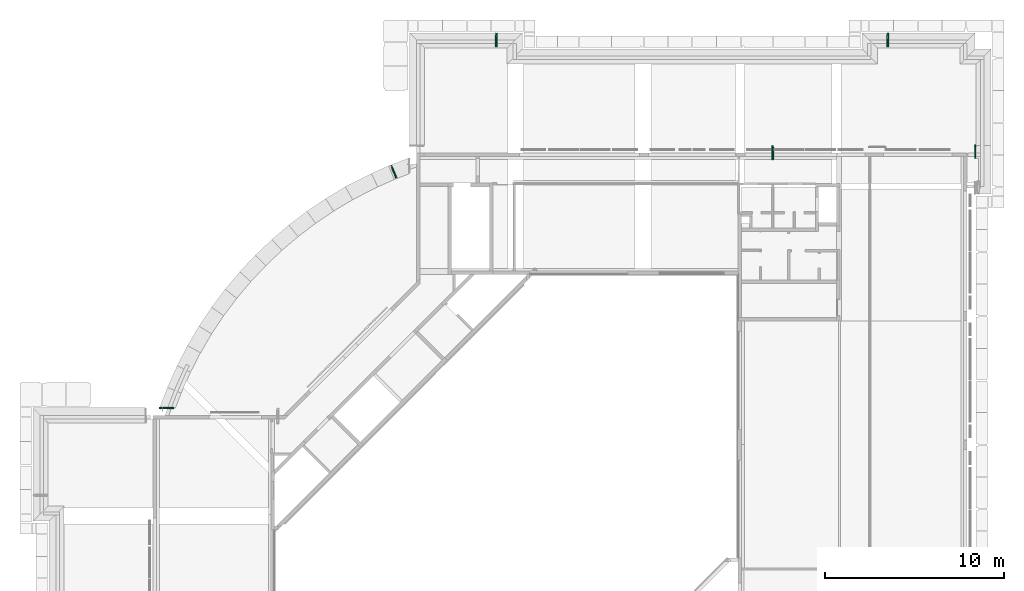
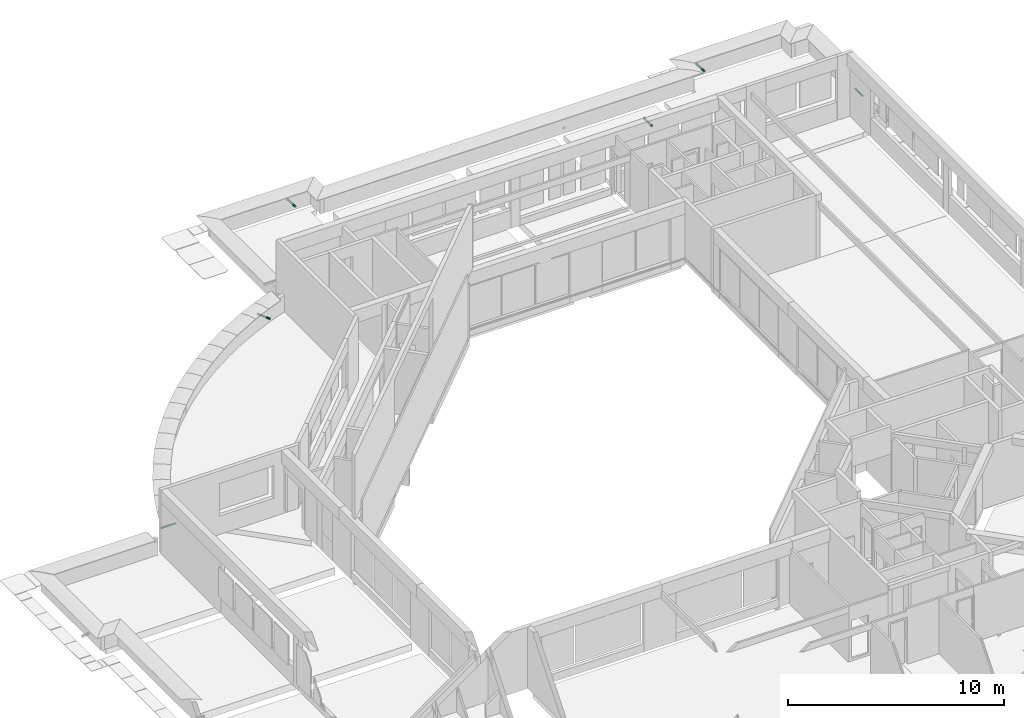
# One storey, part 34 of 38: 6 pipe fittings.
"""IFC4X3_ADD2 building model written with IfcOpenShell, lengths in millimetres."""

import ifcopenshell
import ifcopenshell.guid

model = None  # the IFC model being written
_history = None  # IfcOwnerHistory: only IFC2X3 demands one
_inside = {}  # id of a spatial element -> (the spatial element, [elements in it])
_under = {}  # id of a project, library or spatial element -> (it, [spatial elements below it])
_declared = {}  # id of a project -> (the project, [libraries it declares])
_typed = {}  # id of a type object -> (the type object, [elements of that type])
_made_of = {}  # id of a material, layer set ... -> (it, [elements and type objects made of it])


def new_model(schema):
    """Start an empty IFC model of exactly this schema.

    Asked for "IFC4X3", IfcOpenShell would pick the latest addendum, in which some entities
    have other attributes; the version numbers below select the first issue.
    IFC2X3 requires an IfcOwnerHistory on every rooted entity: one is made here for all.
    """
    global model, _history
    if schema == "IFC4X3":
        model = ifcopenshell.file(schema_version=(4, 3, 0, 0))
    else:
        model = ifcopenshell.file(schema=schema)
    _inside.clear()
    _under.clear()
    _declared.clear()
    _typed.clear()
    _made_of.clear()
    _history = None
    if model.schema == "IFC2X3":
        org = make("IfcOrganization", Name="unknown")
        user = make(
            "IfcPersonAndOrganization",
            ThePerson=make("IfcPerson", FamilyName="unknown"),
            TheOrganization=org,
        )
        app = make(
            "IfcApplication",
            ApplicationDeveloper=org,
            Version="unknown",
            ApplicationFullName="unknown",
            ApplicationIdentifier="unknown",
        )
        _history = make(
            "IfcOwnerHistory",
            OwningUser=user,
            OwningApplication=app,
            ChangeAction="ADDED",
            CreationDate=0,
        )
    return model


def make(cls, **values):
    """One entity of the class cls with the attributes given. An attribute that is None is left unset."""
    return model.create_entity(
        cls, **{name: value for name, value in values.items() if value is not None}
    )


def rooted(cls, **values):
    """An entity with a GlobalId (a new one), such as an element, a storey or a relation."""
    return make(cls, GlobalId=ifcopenshell.guid.new(), OwnerHistory=_history, **values)


def si_unit(unit_type, name, prefix=None):
    """IfcSIUnit, for example si_unit("LENGTHUNIT", "METRE", prefix="MILLI")."""
    return make("IfcSIUnit", UnitType=unit_type, Prefix=prefix, Name=name)


def assignment(units):
    """IfcUnitAssignment: the units of a project."""
    return None if units is None else make("IfcUnitAssignment", Units=units)


def point(xyz):
    """IfcCartesianPoint."""
    return None if xyz is None else make("IfcCartesianPoint", Coordinates=xyz)


def direction(xyz):
    """IfcDirection."""
    return None if xyz is None else make("IfcDirection", DirectionRatios=xyz)


def frame(location, z_axis=None, x_axis=None):
    """IfcAxis2Placement3D, a coordinate frame: its origin and axes. An axis left out is left unset."""
    return make(
        "IfcAxis2Placement3D",
        Location=point(location),
        Axis=direction(z_axis),
        RefDirection=direction(x_axis),
    )


def frame_2d(location, x_axis=None):
    """IfcAxis2Placement2D, a coordinate frame in the plane: its origin and x axis."""
    return make(
        "IfcAxis2Placement2D", Location=point(location), RefDirection=direction(x_axis)
    )


def origin_with_axes():
    """The frame at (0, 0, 0) with the z axis (0, 0, 1) and the x axis (1, 0, 0) written out."""
    return frame((0.0, 0.0, 0.0), z_axis=(0.0, 0.0, 1.0), x_axis=(1.0, 0.0, 0.0))


def place(relative_to, where):
    """IfcLocalPlacement: puts the frame where relative to a parent placement (None: the world)."""
    return make(
        "IfcLocalPlacement", PlacementRelTo=relative_to, RelativePlacement=where
    )


def context(
    kind, dimensions, precision=None, world=None, true_north=None, identifier=None
):
    """IfcGeometricRepresentationContext, for example the 3D "Model" context."""
    return make(
        "IfcGeometricRepresentationContext",
        ContextIdentifier=identifier,
        ContextType=kind,
        CoordinateSpaceDimension=dimensions,
        Precision=precision,
        WorldCoordinateSystem=world,
        TrueNorth=true_north,
    )


def subcontext(parent, identifier, kind, view, scale=None):
    """IfcGeometricRepresentationSubContext, for example "Body" below "Model"."""
    return make(
        "IfcGeometricRepresentationSubContext",
        ContextIdentifier=identifier,
        ContextType=kind,
        ParentContext=parent,
        TargetScale=scale,
        TargetView=view,
    )


def project(units=None, contexts=None):
    """IfcProject with its units and contexts."""
    return rooted(
        "IfcProject",
        Name="project",
        RepresentationContexts=contexts,
        UnitsInContext=assignment(units),
    )


def spatial(cls, under=None, at=None, **own):
    """A site, building, storey or space (cls), placed at a placement, below another one or the project."""
    s = rooted(cls, ObjectPlacement=at, **own)
    if under is not None:
        _under.setdefault(under.id(), (under, []))[1].append(s)
    return s


def polyline(points):
    """IfcPolyline through the points."""
    return make("IfcPolyline", Points=[point(p) for p in points])


def point_list(points):
    """IfcCartesianPointList2D or 3D."""
    cls = (
        "IfcCartesianPointList2D" if len(points[0]) == 2 else "IfcCartesianPointList3D"
    )
    return make(cls, CoordList=points)


def profile(cls, at=None, kind="AREA", **sizes):
    """A parametric profile (cls). Its sizes go by their IFC names, for example OverallWidth=200.0."""
    return make(cls, ProfileType=kind, Position=at, **sizes)


def rectangle(**sizes):
    """IfcRectangleProfileDef."""
    return profile("IfcRectangleProfileDef", **sizes)


def circle(**sizes):
    """IfcCircleProfileDef."""
    return profile("IfcCircleProfileDef", **sizes)


def outline(outer, holes=None, kind="AREA"):
    """IfcArbitraryClosedProfileDef: a profile drawn as a closed curve; with holes, ...WithVoids."""
    if holes is None:
        return make("IfcArbitraryClosedProfileDef", ProfileType=kind, OuterCurve=outer)
    return make(
        "IfcArbitraryProfileDefWithVoids",
        ProfileType=kind,
        OuterCurve=outer,
        InnerCurves=holes,
    )


def extrude(swept, where, along, depth):
    """IfcExtrudedAreaSolid: the profile swept, set in the frame where, extruded along a direction by depth."""
    return make(
        "IfcExtrudedAreaSolid",
        SweptArea=swept,
        Position=where,
        ExtrudedDirection=direction(along),
        Depth=depth,
    )


def polygons(points, faces, closed=None, point_numbers=None):
    """IfcPolygonalFaceSet: a face is its outer loop, then its inner loops; points numbered from 1."""
    made = []
    for loops in faces:
        if len(loops) == 1:
            made.append(make("IfcIndexedPolygonalFace", CoordIndex=loops[0]))
        else:
            made.append(
                make(
                    "IfcIndexedPolygonalFaceWithVoids",
                    CoordIndex=loops[0],
                    InnerCoordIndices=loops[1:],
                )
            )
    return make(
        "IfcPolygonalFaceSet",
        Coordinates=point_list(points),
        Closed=closed,
        Faces=made,
        PnIndex=point_numbers,
    )


def shape(context_of_items, identifier, shape_type, items):
    """IfcShapeRepresentation: the items that make up one representation, for example the "Body"."""
    return make(
        "IfcShapeRepresentation",
        ContextOfItems=context_of_items,
        RepresentationIdentifier=identifier,
        RepresentationType=shape_type,
        Items=items,
    )


def source(mapping_origin, context_of_items, identifier, shape_type, items):
    """IfcRepresentationMap: a shape defined once, which mapped items show again and again."""
    return make(
        "IfcRepresentationMap",
        MappingOrigin=mapping_origin,
        MappedRepresentation=shape(context_of_items, identifier, shape_type, items),
    )


def transform(
    local_origin,
    x_axis=None,
    y_axis=None,
    z_axis=None,
    scale=None,
    scale2=None,
    scale3=None,
    uniform=True,
):
    """IfcCartesianTransformationOperator3D, or its non-uniform kind. x_axis, y_axis, z_axis: its Axis1, 2, 3."""
    if uniform:
        return make(
            "IfcCartesianTransformationOperator3D",
            Axis1=direction(x_axis),
            Axis2=direction(y_axis),
            LocalOrigin=point(local_origin),
            Scale=scale,
            Axis3=direction(z_axis),
        )
    return make(
        "IfcCartesianTransformationOperator3DnonUniform",
        Axis1=direction(x_axis),
        Axis2=direction(y_axis),
        LocalOrigin=point(local_origin),
        Scale=scale,
        Axis3=direction(z_axis),
        Scale2=scale2,
        Scale3=scale3,
    )


def mapped(mapping_source, mapping_target):
    """IfcMappedItem: shows the shape of a source again, moved by a transform."""
    return make(
        "IfcMappedItem", MappingSource=mapping_source, MappingTarget=mapping_target
    )


def material(Name=None, Category=None):
    """IfcMaterial."""
    return make("IfcMaterial", Name=Name, Category=Category)


def made_of(thing, what):
    """Note that an element or type object is made of a material, layer set ...; save() writes the relation."""
    if what is not None:
        _made_of.setdefault(what.id(), (what, []))[1].append(thing)
    return thing


def element(
    cls,
    number,
    at=None,
    inside=None,
    cuts=None,
    type_object=None,
    material=None,
    context=None,
    identifier="Body",
    shape_type=None,
    held_by="IfcProductDefinitionShape",
    body=None,
    shapes=None,
    **own,
):
    """One element of the class cls, such as IfcWall. Its Tag is "e" and its number.

    at: its placement. inside: the storey or other place that contains it. cuts: it is an
    opening in that element (IfcRelVoidsElement). A single representation is given by context,
    identifier, shape_type and body (its items); several are given by shapes. held_by: the class
    of the entity that holds the representations. save() writes the other relations.
    """
    e = rooted(cls, Tag="e%d" % number, ObjectPlacement=at, **own)
    if body is not None:
        shapes = [shape(context, identifier, shape_type, body)]
    if shapes is not None:
        e.Representation = make(held_by, Representations=shapes)
    if inside is not None:
        _inside.setdefault(inside.id(), (inside, []))[1].append(e)
    if cuts is not None:
        rooted(
            "IfcRelVoidsElement", RelatingBuildingElement=cuts, RelatedOpeningElement=e
        )
    if type_object is not None:
        _typed.setdefault(type_object.id(), (type_object, []))[1].append(e)
    return made_of(e, material)


def aggregate(whole, parts):
    """IfcRelAggregates: a whole, such as a stair, and the parts it consists of."""
    return rooted("IfcRelAggregates", RelatingObject=whole, RelatedObjects=parts)


def save(model, path):
    """Write the relations noted so far, then the file.

    IfcRelAggregates (storeys below a building ...), IfcRelContainedInSpatialStructure (elements
    in a storey), IfcRelDefinesByType, IfcRelAssociatesMaterial and IfcRelDeclares: one each for
    every whole, place, type object, material and project.
    """
    for whole, parts in _under.values():
        aggregate(whole, parts)
    for where, things in _inside.values():
        rooted(
            "IfcRelContainedInSpatialStructure",
            RelatedElements=things,
            RelatingStructure=where,
        )
    for kind, things in _typed.values():
        rooted("IfcRelDefinesByType", RelatedObjects=things, RelatingType=kind)
    for what, things in _made_of.values():
        rooted("IfcRelAssociatesMaterial", RelatedObjects=things, RelatingMaterial=what)
    for by, libraries in _declared.values():
        rooted("IfcRelDeclares", RelatingContext=by, RelatedDefinitions=libraries)
    model.write(path)


model = new_model("IFC4X3_ADD2")

# Units and contexts
model_context = context("Model", 3, precision=1e-05, world=origin_with_axes(), true_north=direction((0.0, 1.0)))
body_context = subcontext(model_context, "Body", "Model", "MODEL_VIEW")
ifc_project = project(units=[si_unit("LENGTHUNIT", "METRE", prefix="MILLI"), si_unit("AREAUNIT", "SQUARE_METRE"), si_unit("VOLUMEUNIT", "CUBIC_METRE"), si_unit("PLANEANGLEUNIT", "RADIAN"), si_unit("TIMEUNIT", "SECOND"), si_unit("MASSUNIT", "GRAM")], contexts=[model_context])

# Site, building, storey
site_placement = place(None, origin_with_axes())
site = spatial("IfcSite", under=ifc_project, at=site_placement, Name="Site", CompositionType="ELEMENT")
building_placement = place(site_placement, origin_with_axes())
building = spatial("IfcBuilding", under=site, at=building_placement, Name="IFC Building Story")
storey_placement = place(building_placement, frame((0.0, 0.0, 10800.0), z_axis=(0.0, 0.0, 1.0), x_axis=(1.0, 0.0, 0.0)))
storey = spatial("IfcBuildingStorey", under=building, at=storey_placement, Name="030", Elevation=10800.0)

# Pipe fittings
shared_shape_1 = source(origin_with_axes(), body_context, "Body", "Tessellation", [
    polygons([(2.59527223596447, 80.2423912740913, 117.667377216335), (2.59527223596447, 80.2423912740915, 3.79003495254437e-11), (20.5952722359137, 80.2423912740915, 7.30935312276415e-11), (20.5952722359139, 80.2423912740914, 41.0150039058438), (20.5952722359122, 80.2423912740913, 117.667377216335), (2.59527223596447, 82.2423912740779, 117.667377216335), (2.59527223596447, 82.2423912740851, 7.28228144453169e-11), (110.595272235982, 82.2423912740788, 0.0), (110.595272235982, 82.2423912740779, 117.667377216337), (110.595272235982, 80.2423912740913, 117.667377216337), (110.595272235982, 80.2423912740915, 0.0), (92.5952722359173, 82.2423912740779, 117.667377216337), (92.5952722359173, 80.2423912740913, 117.667377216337), (92.5952722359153, 82.2423912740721, 41.0983372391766), (92.5952722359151, 80.2423912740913, 41.0150039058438), (20.5952722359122, 82.2423912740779, 117.667377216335), (20.5952722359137, 82.2423912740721, 41.0983372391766), (20.5952722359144, 42.242391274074, 1.12347464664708e-10), (20.5952722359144, 42.2423912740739, 39.4316705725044), (92.5952722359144, 42.2423912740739, 39.4316705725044), (92.5952722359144, 42.242391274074, 1.12347464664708e-10), (92.5952722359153, 80.2423912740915, 7.20106640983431e-11), (22.5952722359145, 82.2423912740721, 41.0983372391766), (22.5952722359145, 82.2423912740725, 1.08015996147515e-10), (22.5952722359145, 44.2423912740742, 9.33972899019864e-11), (90.5952722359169, 44.2423912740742, 9.33972899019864e-11), (90.5952722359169, 82.2423912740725, 1.08015996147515e-10), (90.5952722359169, 82.2423912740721, 41.0983372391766), (90.5952722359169, 44.2423912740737, 39.515003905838), (22.5952722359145, 44.2423912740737, 39.515003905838)], [[[4, 5, 1]], [[4, 1, 2]], [[2, 3, 4]], [[6, 7, 2, 1]], [[8, 9, 10, 11]], [[9, 12, 13, 10]], [[13, 12, 14, 15]], [[16, 5, 4, 17]], [[16, 6, 1, 5]], [[18, 19, 4, 3]], [[20, 21, 22, 15]], [[19, 18, 21, 20]], [[17, 23, 24]], [[17, 24, 7]], [[7, 6, 16]], [[7, 16, 17]], [[3, 2, 7]], [[3, 7, 24]], [[22, 21, 26]], [[22, 26, 27]], [[27, 8, 11]], [[27, 11, 22]], [[21, 18, 25]], [[21, 25, 26]], [[18, 3, 24]], [[18, 24, 25]], [[15, 14, 28]], [[4, 19, 30]], [[4, 30, 23]], [[23, 17, 4]], [[19, 20, 29]], [[19, 29, 30]], [[20, 15, 28]], [[20, 28, 29]], [[26, 29, 28, 27]], [[30, 25, 24, 23]], [[29, 26, 25, 30]], [[14, 12, 9]], [[14, 9, 8]], [[8, 27, 14]], [[27, 28, 14]], [[15, 22, 11]], [[11, 10, 13]], [[11, 13, 15]]]),
    polygons([(1.59527223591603, 121.601263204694, 81.2353264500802), (3.46935179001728, 122.193875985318, 67.0126197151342), (8.9638750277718, 122.746103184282, 53.7591669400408), (17.7043992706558, 123.220311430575, 42.378169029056), (29.0952722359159, 123.584184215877, 33.645222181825), (42.3602247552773, 123.812924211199, 28.1554622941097), (56.5952722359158, 123.890943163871, 26.2830074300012), (70.8303197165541, 123.812924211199, 28.1554622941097), (84.0952722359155, 123.584184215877, 33.6452221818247), (95.4861452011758, 123.220311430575, 42.3781690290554), (104.22666944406, 122.746103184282, 53.7591669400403), (109.721192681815, 122.193875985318, 67.0126197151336), (111.595272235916, 121.601263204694, 81.2353264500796), (109.721192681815, 121.008650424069, 95.4580331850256), (104.22666944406, 120.456423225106, 108.711485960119), (95.4861452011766, 119.982214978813, 120.092483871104), (84.0952722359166, 119.618342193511, 128.825430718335), (70.8303197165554, 119.389602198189, 134.31519060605), (56.595272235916, 119.311583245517, 136.187645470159), (42.3602247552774, 119.389602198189, 134.315190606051), (29.095272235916, 119.618342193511, 128.825430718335), (17.704399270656, 119.982214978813, 120.092483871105), (8.96387502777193, 120.456423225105, 108.71148596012), (3.46935179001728, 121.008650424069, 95.4580331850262), (29.095272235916, 769.054839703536, 155.885284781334), (42.3602247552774, 768.826099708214, 161.375044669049), (56.5952722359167, 768.748080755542, 163.247499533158), (70.8303197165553, 768.826099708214, 161.375044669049), (84.0952722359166, 769.054839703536, 155.885284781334), (95.4861452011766, 769.418712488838, 147.152337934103), (104.22666944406, 769.892920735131, 135.771340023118), (109.721192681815, 770.445147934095, 122.517887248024), (111.595272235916, 771.037760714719, 108.295180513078), (109.721192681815, 771.630373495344, 94.0724737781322), (104.22666944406, 772.182600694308, 80.8190210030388), (95.4861452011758, 772.6568089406, 69.438023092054), (84.0952722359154, 773.020681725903, 60.7050762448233), (70.8303197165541, 773.249421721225, 55.2153163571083), (56.5952722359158, 773.327440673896, 53.3428614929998), (42.3602247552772, 773.249421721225, 55.2153163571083), (29.0952722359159, 773.020681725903, 60.7050762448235), (17.7043992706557, 772.6568089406, 69.4380230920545), (8.96387502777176, 772.182600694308, 80.8190210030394), (3.46935179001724, 771.630373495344, 94.0724737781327), (1.59527223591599, 771.037760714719, 108.295180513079), (3.46935179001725, 770.445147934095, 122.517887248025), (8.9638750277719, 769.892920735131, 135.771340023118), (17.7043992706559, 769.418712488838, 147.152337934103), (77.6428610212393, 448.434900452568, 43.9959306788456), (67.0575535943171, 483.984405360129, 42.2920262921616), (67.0575535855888, 408.654618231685, 147.23848065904), (77.6428610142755, 444.204123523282, 145.534576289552), (56.5952722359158, 382.618184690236, 37.0633091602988), (56.5952722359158, 514.600199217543, 42.5625597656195), (100.229705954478, 447.713380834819, 61.3124012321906), (111.124739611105, 446.020648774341, 101.937970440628), (56.5952722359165, 510.020839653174, 152.467197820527), (90.0771508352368, 448.136037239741, 51.1686476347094), (107.408646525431, 447.195734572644, 73.7359114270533), (111.124739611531, 446.618375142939, 87.5925365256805), (56.595272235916, 378.038831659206, 146.967947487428), (107.408646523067, 445.443289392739, 115.794595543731), (90.0771508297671, 444.502986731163, 138.361859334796), (100.22970595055, 444.92564313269, 128.218105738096), (23.1133935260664, 444.502988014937, 138.3618592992), (35.5476832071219, 444.20412714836, 145.534576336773), (46.1329905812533, 479.488667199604, 150.189899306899), (12.9608384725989, 444.925643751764, 128.21810570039), (46.132990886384, 413.150363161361, 39.3406078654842), (35.5476834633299, 448.434900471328, 43.9959306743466), (5.78189792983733, 445.443289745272, 115.794595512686), (2.06580485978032, 446.020648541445, 101.937970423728), (2.06580486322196, 446.618375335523, 87.5925365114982), (5.78189795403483, 447.195734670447, 73.7359114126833), (12.9608385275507, 447.713380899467, 61.3124012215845), (23.113393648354, 448.136037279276, 51.1686476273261)], [[[1, 2, 3]], [[1, 3, 4]], [[1, 4, 5]], [[1, 5, 6]], [[1, 6, 7]], [[1, 7, 8]], [[1, 8, 9]], [[1, 9, 10]], [[1, 10, 11]], [[1, 11, 12]], [[1, 12, 13]], [[1, 13, 14]], [[1, 14, 15]], [[1, 15, 16]], [[1, 16, 17]], [[1, 17, 18]], [[1, 18, 19]], [[1, 19, 20]], [[1, 20, 21]], [[1, 21, 22]], [[1, 22, 23]], [[1, 23, 24]], [[25, 26, 27]], [[25, 27, 28]], [[25, 28, 29]], [[25, 29, 30]], [[25, 30, 31]], [[25, 31, 32]], [[25, 32, 33]], [[25, 33, 34]], [[25, 34, 35]], [[25, 35, 36]], [[25, 36, 37]], [[25, 37, 38]], [[25, 38, 39]], [[25, 39, 40]], [[25, 40, 41]], [[25, 41, 42]], [[25, 42, 43]], [[25, 43, 44]], [[25, 44, 45]], [[25, 45, 46]], [[25, 46, 47]], [[25, 47, 48]], [[49, 50, 38]], [[28, 51, 52]], [[50, 53, 54, 39]], [[37, 49, 38]], [[55, 36, 35]], [[13, 56, 14]], [[28, 27, 57]], [[37, 36, 58]], [[8, 50, 49]], [[59, 35, 34]], [[39, 38, 50]], [[53, 50, 8]], [[58, 49, 37]], [[8, 7, 53]], [[59, 55, 35]], [[9, 49, 58]], [[55, 58, 36]], [[10, 58, 55]], [[55, 59, 11]], [[10, 55, 11]], [[60, 13, 12]], [[8, 49, 9]], [[56, 60, 33]], [[51, 57, 61, 19]], [[62, 32, 31]], [[52, 63, 29]], [[17, 52, 18]], [[30, 64, 31]], [[52, 29, 28]], [[15, 64, 16]], [[63, 64, 30]], [[30, 29, 63]], [[28, 57, 51]], [[19, 18, 51]], [[32, 56, 33]], [[14, 56, 62]], [[60, 59, 34]], [[13, 60, 56]], [[59, 60, 12]], [[15, 62, 64]], [[64, 62, 31]], [[16, 64, 63]], [[63, 52, 17]], [[33, 60, 34]], [[62, 56, 32]], [[11, 59, 12]], [[14, 62, 15]], [[16, 63, 17]], [[51, 18, 52]], [[9, 58, 10]], [[65, 66, 25]], [[67, 20, 61]], [[66, 26, 25]], [[67, 26, 66]], [[68, 48, 47]], [[40, 69, 70]], [[67, 61, 57, 27]], [[25, 48, 65]], [[69, 54, 53, 7]], [[71, 47, 46]], [[20, 66, 21]], [[26, 67, 27]], [[20, 19, 61]], [[22, 68, 23]], [[21, 65, 22]], [[21, 66, 65]], [[23, 71, 24]], [[22, 65, 68]], [[68, 71, 23]], [[72, 71, 46]], [[72, 1, 24]], [[68, 65, 48]], [[73, 72, 45]], [[71, 68, 47]], [[74, 44, 43]], [[40, 39, 54]], [[69, 6, 70]], [[42, 75, 43]], [[70, 41, 40]], [[70, 76, 41]], [[5, 70, 6]], [[42, 41, 76]], [[4, 76, 5]], [[7, 6, 69]], [[44, 73, 45]], [[2, 73, 74]], [[45, 72, 46]], [[1, 72, 73]], [[2, 74, 3]], [[3, 74, 75]], [[3, 75, 4]], [[4, 75, 76]], [[76, 70, 5]], [[76, 75, 42]], [[74, 73, 44]], [[75, 74, 43]], [[40, 54, 69]], [[1, 73, 2]], [[20, 67, 66]], [[71, 72, 24]]]),
    polygons([(90.5952722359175, 120.083261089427, 117.667377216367), (22.5952722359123, 120.083261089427, 117.667377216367), (22.5952722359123, 120.000000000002, 119.665643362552), (90.5952722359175, 120.000000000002, 119.665643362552), (90.5952722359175, 40.0166903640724, 114.3312701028), (90.5952722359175, 39.9334292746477, 116.329536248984), (22.5952722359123, 39.9334292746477, 116.329536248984), (22.5952722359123, 40.0166903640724, 114.3312701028)], [[[1, 2, 3, 4]], [[5, 6, 7, 8]], [[2, 1, 5, 8]], [[4, 3, 7, 6]], [[3, 2, 8, 7]], [[1, 4, 6, 5]]]),
    polygons([(92.5952722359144, 0.0, 114.665643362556), (90.5952722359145, 0.0, 114.665643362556), (90.5952722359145, 3.11934390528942, 39.8013896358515), (22.5952722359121, 3.11934390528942, 39.8013896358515), (22.5952722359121, 0.0, 114.665643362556), (20.5952722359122, 0.0, 114.665643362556), (20.5952722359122, 3.20252640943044, 37.8050095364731), (92.5952722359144, 3.20252640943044, 37.8050095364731), (20.5952722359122, 123.202526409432, 42.8050095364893), (92.5952722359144, 123.202526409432, 42.8050095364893), (22.5952722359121, 123.119343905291, 44.8013896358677), (22.5952722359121, 120.0, 119.665643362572), (90.5952722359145, 123.119343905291, 44.8013896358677), (90.5952722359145, 120.0, 119.665643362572), (92.5952722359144, 120.0, 119.665643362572), (20.5952722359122, 120.0, 119.665643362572)], [[[4, 5, 6]], [[4, 6, 7]], [[7, 8, 3]], [[7, 3, 4]], [[8, 1, 2]], [[8, 2, 3]], [[9, 10, 8, 7]], [[11, 12, 5, 4]], [[13, 11, 4, 3]], [[14, 13, 3, 2]], [[13, 14, 15]], [[13, 15, 10]], [[10, 9, 11]], [[10, 11, 13]], [[9, 16, 12]], [[9, 12, 11]], [[10, 15, 1, 8]], [[16, 9, 7, 6]], [[12, 16, 6, 5]], [[15, 14, 2, 1]]]),
])
for number, where, z_axis, x_axis, name in (
    (1, (-26143.4047277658, 52098.2423912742, 10.0), (0.0, 0.0, 1.0), (-1.0, 0.0, 0.0), "Afwerkstuk spuwer 70 x 70 RVS:Type 1"),
    (2, (-4274.15472776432, 52098.2423912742, 10.0), (0.0, 0.0, 1.0), (-1.0, 0.0, 0.0), "Afwerkstuk spuwer 70 x 70 RVS:Type 1"),
):
    element("IfcPipeFitting", number, at=place(storey_placement, frame(where, z_axis=z_axis, x_axis=x_axis)), inside=storey, Name=name, ObjectType="Afwerkstuk spuwer 70 x 70 RVS:Type 1", PredefinedType="EXIT", context=body_context, shape_type="MappedRepresentation", body=[
        mapped(shared_shape_1, transform((0.0, 0.0, 0.0))),
    ])
shared_shape_2 = source(origin_with_axes(), body_context, "Body", "SweptSolid", [
    extrude(outline(polyline([(36.00000000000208, -38.96319017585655), (-36.00000000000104, -38.96319017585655), (-36.00000000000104, 37.96413401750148), (-34.00000000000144, 37.96413401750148), (-34.00000000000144, -36.96507785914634), (34.0, -36.96507785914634), (34.0, 37.96413401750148), (36.00000000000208, 37.96413401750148), (36.00000000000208, -38.96319017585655)])), frame((56.59527223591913, 773.3422453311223, 54.85395429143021), z_axis=(0.0, -0.999133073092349, 0.0416305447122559), x_axis=(1.0, 0.0, 0.0)), (0.0, 0.0, 1.0), 120.104121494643),
    extrude(rectangle(XDim=80.13604281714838, YDim=68.0000000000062, at=frame_2d((0.0, 0.0), x_axis=(0.0, 1.0))), frame((56.5952722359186, 694.8727371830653, 94.11885647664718), z_axis=(0.0, 0.04163054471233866, 0.9991330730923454), x_axis=(1.0, 0.0, 0.0)), (0.0, 0.0, 1.0), 2.0),
    extrude(circle(Radius=54.9999999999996, at=frame_2d((0.0, 0.0), x_axis=(0.0, 1.0))), frame((56.59527223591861, 653.3214497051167, 59.35485926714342), z_axis=(0.0, -0.999133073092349, 0.0416305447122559), x_axis=(1.0, 0.0, 0.0)), (0.0, 0.0, 1.0), 649.9999999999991),
    extrude(outline(polyline([(54.00000000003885, -43.39345501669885), (35.99999999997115, -43.39345501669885), (35.99999999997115, 34.39345501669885), (-36.00000000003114, 34.39345501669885), (-36.00000000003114, -43.39345501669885), (-53.99999999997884, -43.39345501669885), (-53.99999999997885, 52.39345501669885), (54.00000000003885, 52.39345501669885), (54.00000000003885, -43.39345501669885)])), frame((56.59527223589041, 692.6803216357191, 52.39345501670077), z_axis=(0.0, 1.0, 0.0), x_axis=(1.0, 0.0, 0.0)), (0.0, 0.0, 1.0), 1.999999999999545),
])
pipe_fitting_1_placement = place(storey_placement, frame((-10831.5952722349, 45023.319678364, 3021.880467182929), z_axis=(0.0, 0.0, 1.0), x_axis=(1.0, 0.0, 0.0)))
element("IfcPipeFitting", 3, at=pipe_fitting_1_placement, inside=storey, Name="Afwerkstuk spuwer 70 x 70 RVS:Type 1", ObjectType="Afwerkstuk spuwer 70 x 70 RVS:Type 1", PredefinedType="EXIT", context=body_context, shape_type="MappedRepresentation", body=[
    mapped(shared_shape_2, transform((0.0, 0.0, 0.0))),
])
shared_shape_3 = source(origin_with_axes(), body_context, "Body", "SweptSolid", [
    extrude(outline(polyline([(-53.99999999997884, -43.39345501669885), (-53.99999999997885, 52.39345501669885), (54.00000000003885, 52.39345501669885), (54.00000000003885, -43.39345501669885), (35.99999999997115, -43.39345501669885), (35.99999999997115, 34.39345501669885), (-36.00000000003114, 34.39345501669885), (-36.00000000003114, -43.39345501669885), (-53.99999999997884, -43.39345501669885)])), frame((56.59527223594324, 80.2423912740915, 52.39345501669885), z_axis=(0.0, 1.0, 0.0), x_axis=(1.0, 0.0, 0.0)), (0.0, 0.0, 1.0), 1.999999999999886),
    extrude(circle(Radius=54.9999999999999, at=frame_2d((0.0, 0.0), x_axis=(0.0, -1.0))), frame((56.5952722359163, 121.601263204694, 59.3548592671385), z_axis=(0.0, 0.9991330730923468, 0.04163054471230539), x_axis=(1.0, 0.0, 0.0)), (0.0, 0.0, 1.0), 650.0),
    extrude(rectangle(XDim=80.13604281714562, YDim=68.00000000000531, at=frame_2d((0.0, 0.0), x_axis=(0.0, 1.0))), frame((56.5952722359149, 80.04997572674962, 94.11885647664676), z_axis=(0.0, -0.04163054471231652, 0.9991330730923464), x_axis=(1.0, 0.0, 0.0)), (0.0, 0.0, 1.0), 1.999999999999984),
    extrude(outline(polyline([(36.00000000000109, -37.96413401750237), (34.0000000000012, -37.96413401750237), (34.0000000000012, 36.96507785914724), (-34.00000000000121, 36.96507785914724), (-34.00000000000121, -37.96413401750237), (-36.00000000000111, -37.96413401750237), (-36.00000000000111, 38.96319017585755), (36.00000000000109, 38.96319017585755), (36.00000000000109, -37.96413401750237)])), frame((56.5952722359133, 1.580467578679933, 54.85395429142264), z_axis=(0.0, 0.9991330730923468, 0.04163054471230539), x_axis=(1.0, 0.0, 0.0)), (0.0, 0.0, 1.0), 120.104121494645),
])
pipe_fitting_2_placement = place(storey_placement, frame((-32029.1152367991, 44721.5838455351, 91.88046718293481), z_axis=(0.0, 0.0, 1.0), x_axis=(-0.9264646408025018, -0.3763818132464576, 0.0)))
element("IfcPipeFitting", 4, at=pipe_fitting_2_placement, inside=storey, Name="Afwerkstuk spuwer 70 x 70 RVS:Type 1", ObjectType="Afwerkstuk spuwer 70 x 70 RVS:Type 1", PredefinedType="EXIT", context=body_context, shape_type="MappedRepresentation", body=[
    mapped(shared_shape_3, transform((0.0, 0.0, 0.0))),
])
ifc_material = material(Name="<Unnamed>")
shared_shape_4 = source(origin_with_axes(), body_context, "Body", "SweptSolid", [
    extrude(outline(polyline([(-54.00000000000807, -40.49999999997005), (-54.00000000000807, 49.49999999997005), (53.99999999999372, 49.49999999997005), (53.99999999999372, -40.49999999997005), (36.00000000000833, -40.49999999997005), (36.00000000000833, 31.49999999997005), (-35.99999999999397, 31.49999999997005), (-35.99999999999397, -40.49999999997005), (-54.00000000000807, -40.49999999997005)])), frame((53.99999999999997, 78.0, 49.49999999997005), z_axis=(0.0, 1.0, 0.0), x_axis=(1.0, 0.0, 0.0)), (0.0, 0.0, 1.0), 1.999999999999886),
    extrude(outline(polyline([(-36.00000000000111, 36.49999999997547), (36.00000000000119, 36.49999999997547), (36.00000000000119, -35.49999999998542), (34.0, -35.49999999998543), (34.0, 34.49999999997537), (-34.00000000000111, 34.49999999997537), (-34.00000000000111, -35.49999999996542), (-36.00000000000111, -35.49999999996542), (-36.00000000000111, 36.49999999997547)])), frame((54.0, 0.0, 54.49999999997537), z_axis=(0.0, 1.0, 0.0), x_axis=(1.0, 0.0, 0.0)), (0.0, 0.0, 1.0), 750.0),
])
pipe_fitting_3_placement = place(storey_placement, frame((599.0, 45848.0, 720.0), z_axis=(0.0, 0.0, 1.0), x_axis=(-1.0, 0.0, 0.0)))
element("IfcPipeFitting", 5, at=pipe_fitting_3_placement, inside=storey, material=ifc_material, Name="Spuwer 70 x 70 RVS:Type 1", ObjectType="Spuwer 70 x 70 RVS:Type 1", PredefinedType="EXIT", context=body_context, shape_type="MappedRepresentation", body=[
    mapped(shared_shape_4, transform((0.0, 0.0, 0.0))),
])
shared_shape_5 = source(origin_with_axes(), body_context, "Body", "SweptSolid", [
    extrude(outline(polyline([(-54.00000000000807, -40.49999999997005), (-54.00000000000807, 49.49999999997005), (53.99999999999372, 49.49999999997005), (53.99999999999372, -40.49999999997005), (36.00000000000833, -40.49999999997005), (36.00000000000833, 31.49999999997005), (-35.99999999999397, 31.49999999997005), (-35.99999999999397, -40.49999999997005), (-54.00000000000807, -40.49999999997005)])), frame((53.99999999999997, 78.0, 49.49999999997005), z_axis=(0.0, 1.0, 0.0), x_axis=(1.0, 0.0, 0.0)), (0.0, 0.0, 1.0), 1.999999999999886),
    extrude(outline(polyline([(-36.00000000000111, 36.49999999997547), (36.00000000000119, 36.49999999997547), (36.00000000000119, -35.49999999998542), (34.0, -35.49999999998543), (34.0, 34.49999999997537), (-34.00000000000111, 34.49999999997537), (-34.00000000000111, -35.49999999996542), (-36.00000000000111, -35.49999999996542), (-36.00000000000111, 36.49999999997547)])), frame((54.0, 0.0, 54.49999999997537), z_axis=(0.0, 1.0, 0.0), x_axis=(1.0, 0.0, 0.0)), (0.0, 0.0, 1.0), 800.0),
])
pipe_fitting_4_placement = place(storey_placement, frame((-45035.0, 31192.0, 720.0), z_axis=(0.0, 0.0, 1.0), x_axis=(0.0, -1.0, 0.0)))
element("IfcPipeFitting", 6, at=pipe_fitting_4_placement, inside=storey, material=ifc_material, Name="Spuwer 70 x 70 RVS:Type 1", ObjectType="Spuwer 70 x 70 RVS:Type 1", PredefinedType="EXIT", context=body_context, shape_type="MappedRepresentation", body=[
    mapped(shared_shape_5, transform((0.0, 0.0, 0.0))),
])

save(model, "model.ifc")
